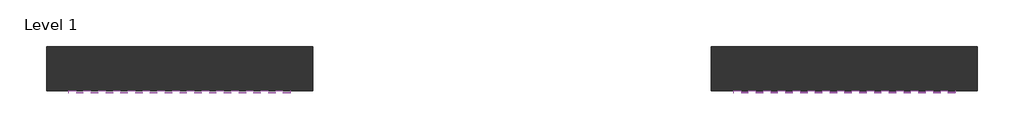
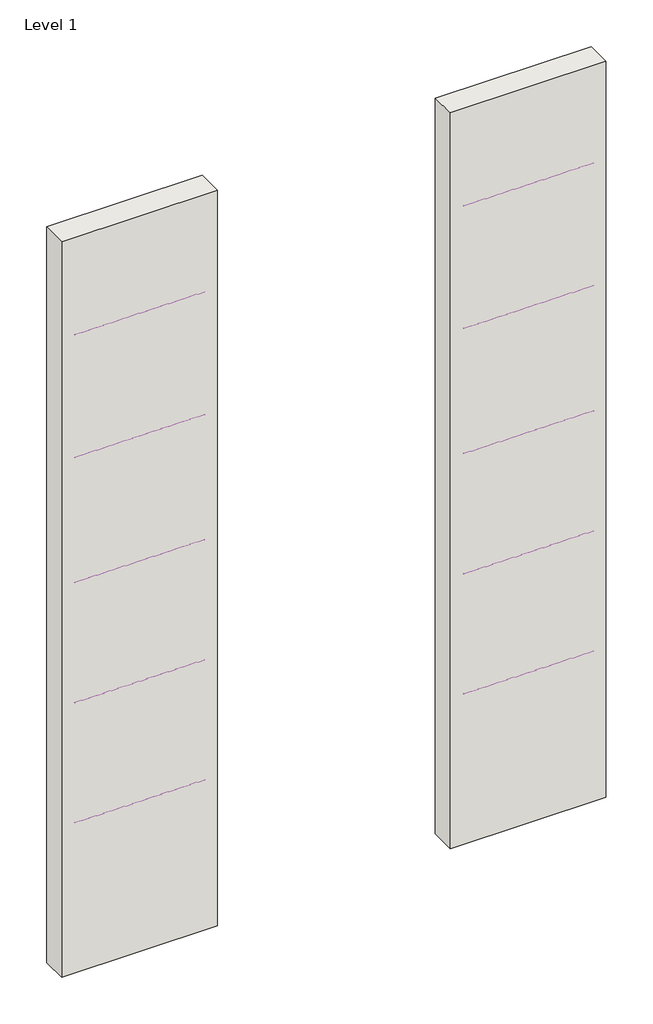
# One storey: 10 coverings, 2 walls.
"""IFC4 building model written with IfcOpenShell, lengths in millimetres."""

from ifc_helpers import new_model, si_unit, point, frame, frame_2d, origin, origin_with_axes, place, context, project, spatial, polyline, circle_curve, trimmed, segment, composite_curve, outline, extrude, element, save

model = new_model("IFC4")

# Units and contexts
model_context = context("Model", 3, world=origin())
ifc_project = project(units=[si_unit("LENGTHUNIT", "METRE", prefix="MILLI")], contexts=[model_context])

# Site, building, storey
site = spatial("IfcSite", under=ifc_project)
building = spatial("IfcBuilding", under=site)
storey = spatial("IfcBuildingStorey", under=building, Name="Level 1", Elevation=0.0)

# Coverings
placement = place(None, origin())
element("IfcCovering", 1, ObjectType="REVIGRES-SILVER_ROOTS-RB-8x118.6-MATT_RECT", at=placement, inside=storey, context=model_context, shape_type="SweptSolid", body=[
    extrude(outline(composite_curve([segment(polyline([(-7008.5342291, 1228.9011415), (-7018.3342291, 1228.9011415), (-7018.3342291, 1299.1011415)]), True, "CONTINUOUS"), segment(trimmed(circle_curve(frame_2d((-7008.5342291, 1299.1011415)), 9.8), [point((-7018.3342291, 1299.1011415))], [point((-7008.5342291, 1308.9011415))], False, "CARTESIAN"), True, "CONTINUOUS"), segment(polyline([(-7008.5342291, 1308.9011415), (-7008.5342291, 1228.9011415)]), True, "CONTINUOUS")], self_intersect=False)), frame((6227.0775556, 0.0, 0.0), z_axis=(1.0, 0.0, 0.0), x_axis=(0.0, 1.0, 0.0)), (0.0, 0.0, 1.0), 1000.0),
])
element("IfcCovering", 2, ObjectType="REVIGRES-SILVER_ROOTS-RB-8x59.2-POL", at=placement, inside=storey, context=model_context, shape_type="SweptSolid", body=[
    extrude(outline(composite_curve([segment(polyline([(-7008.5342291, 3188.9011415), (-7016.5342291, 3188.9011415), (-7016.5342291, 3260.9011415)]), True, "CONTINUOUS"), segment(trimmed(circle_curve(frame_2d((-7008.5342291, 3260.9011415)), 8.0), [point((-7016.5342291, 3260.9011415))], [point((-7008.5342291, 3268.9011415))], False, "CARTESIAN"), True, "CONTINUOUS"), segment(polyline([(-7008.5342291, 3268.9011415), (-7008.5342291, 3188.9011415)]), True, "CONTINUOUS")], self_intersect=False)), frame((9227.0775556, 0.0, 0.0), z_axis=(1.0, 0.0, 0.0), x_axis=(0.0, 1.0, 0.0)), (0.0, 0.0, 1.0), 1000.0),
])
element("IfcCovering", 3, ObjectType="REVIGRES-SILVER_ROOTS-RB-8x59.2-MATT_RECT", at=placement, inside=storey, context=model_context, shape_type="SweptSolid", body=[
    extrude(outline(composite_curve([segment(polyline([(-7008.5342291, 3188.9011415), (-7017.0342291, 3188.9011415), (-7017.0342291, 3260.4011415)]), True, "CONTINUOUS"), segment(trimmed(circle_curve(frame_2d((-7008.5342291, 3260.4011415)), 8.5), [point((-7017.0342291, 3260.4011415))], [point((-7008.5342291, 3268.9011415))], False, "CARTESIAN"), True, "CONTINUOUS"), segment(polyline([(-7008.5342291, 3268.9011415), (-7008.5342291, 3188.9011415)]), True, "CONTINUOUS")], self_intersect=False)), frame((6227.0775556, 0.0, 0.0), z_axis=(1.0, 0.0, 0.0), x_axis=(0.0, 1.0, 0.0)), (0.0, 0.0, 1.0), 1000.0),
])
element("IfcCovering", 4, ObjectType="REVIGRES-SILVER_ROOTS-RB-9.5x29.5-POL", at=placement, inside=storey, context=model_context, shape_type="SweptSolid", body=[
    extrude(outline(composite_curve([segment(polyline([(-7008.5342291, 5208.9011415), (-7016.5342291, 5208.9011415), (-7016.5342291, 5295.9011415)]), True, "CONTINUOUS"), segment(trimmed(circle_curve(frame_2d((-7008.5342291, 5295.9011415)), 8.0), [point((-7016.5342291, 5295.9011415))], [point((-7008.5342291, 5303.9011415))], False, "CARTESIAN"), True, "CONTINUOUS"), segment(polyline([(-7008.5342291, 5303.9011415), (-7008.5342291, 5208.9011415)]), True, "CONTINUOUS")], self_intersect=False)), frame((9227.0775556, 0.0, 0.0), z_axis=(1.0, 0.0, 0.0), x_axis=(0.0, 1.0, 0.0)), (0.0, 0.0, 1.0), 1000.0),
])
element("IfcCovering", 5, ObjectType="REVIGRES-SILVER_ROOTS-RB-8x118.6-POL", at=placement, inside=storey, context=model_context, shape_type="SweptSolid", body=[
    extrude(outline(composite_curve([segment(polyline([(-7008.5342291, 1228.9011415), (-7017.8342291, 1228.9011415), (-7017.8342291, 1299.6011415)]), True, "CONTINUOUS"), segment(trimmed(circle_curve(frame_2d((-7008.5342291, 1299.6011415)), 9.3), [point((-7017.8342291, 1299.6011415))], [point((-7008.5342291, 1308.9011415))], False, "CARTESIAN"), True, "CONTINUOUS"), segment(polyline([(-7008.5342291, 1308.9011415), (-7008.5342291, 1228.9011415)]), True, "CONTINUOUS")], self_intersect=False)), frame((9227.0775556, 0.0, 0.0), z_axis=(1.0, 0.0, 0.0), x_axis=(0.0, 1.0, 0.0)), (0.0, 0.0, 1.0), 1000.0),
])
element("IfcCovering", 6, ObjectType="REVIGRES-SILVER_ROOTS-RB-8x44.35-MATTRECT", at=placement, inside=storey, context=model_context, shape_type="SweptSolid", body=[
    extrude(outline(composite_curve([segment(polyline([(-7008.5342291, 4208.9011415), (-7016.7342291, 4208.9011415), (-7016.7342291, 4280.7011415)]), True, "CONTINUOUS"), segment(trimmed(circle_curve(frame_2d((-7008.5342291, 4280.7011415)), 8.2), [point((-7016.7342291, 4280.7011415))], [point((-7008.5342291, 4288.9011415))], False, "CARTESIAN"), True, "CONTINUOUS"), segment(polyline([(-7008.5342291, 4288.9011415), (-7008.5342291, 4208.9011415)]), True, "CONTINUOUS")], self_intersect=False)), frame((6227.0775556, 0.0, 0.0), z_axis=(1.0, 0.0, 0.0), x_axis=(0.0, 1.0, 0.0)), (0.0, 0.0, 1.0), 1000.0),
])
element("IfcCovering", 7, ObjectType="REVIGRES-SILVER_ROOTS-RB-8x88.9-POL", at=placement, inside=storey, context=model_context, shape_type="SweptSolid", body=[
    extrude(outline(composite_curve([segment(polyline([(-7008.5342291, 2208.9011415), (-7018.3342291, 2208.9011415), (-7018.3342291, 2279.1011415)]), True, "CONTINUOUS"), segment(trimmed(circle_curve(frame_2d((-7008.5342291, 2279.1011415)), 9.8), [point((-7018.3342291, 2279.1011415))], [point((-7008.5342291, 2288.9011415))], False, "CARTESIAN"), True, "CONTINUOUS"), segment(polyline([(-7008.5342291, 2288.9011415), (-7008.5342291, 2208.9011415)]), True, "CONTINUOUS")], self_intersect=False)), frame((9227.0775556, 0.0, 0.0), z_axis=(1.0, 0.0, 0.0), x_axis=(0.0, 1.0, 0.0)), (0.0, 0.0, 1.0), 1000.0),
])
element("IfcCovering", 8, ObjectType="REVIGRES-SILVER_ROOTS-RB-9.5x29.5-MATTRECT", at=placement, inside=storey, context=model_context, shape_type="SweptSolid", body=[
    extrude(outline(composite_curve([segment(polyline([(-7008.5342291, 5208.9011415), (-7017.0342291, 5208.9011415), (-7017.0342291, 5295.4011415)]), True, "CONTINUOUS"), segment(trimmed(circle_curve(frame_2d((-7008.5342291, 5295.4011415)), 8.5), [point((-7017.0342291, 5295.4011415))], [point((-7008.5342291, 5303.9011415))], False, "CARTESIAN"), True, "CONTINUOUS"), segment(polyline([(-7008.5342291, 5303.9011415), (-7008.5342291, 5208.9011415)]), True, "CONTINUOUS")], self_intersect=False)), frame((6227.0775556, 0.0, 0.0), z_axis=(1.0, 0.0, 0.0), x_axis=(0.0, 1.0, 0.0)), (0.0, 0.0, 1.0), 1000.0),
])
element("IfcCovering", 9, ObjectType="REVIGRES-SILVER_ROOTS-RB-8x88.9-MATTRECT", at=placement, inside=storey, context=model_context, shape_type="SweptSolid", body=[
    extrude(outline(composite_curve([segment(polyline([(-7008.5342291, 2208.9011415), (-7019.0342291, 2208.9011415), (-7019.0342291, 2278.4011415)]), True, "CONTINUOUS"), segment(trimmed(circle_curve(frame_2d((-7008.5342291, 2278.4011415)), 10.5), [point((-7019.0342291, 2278.4011415))], [point((-7008.5342291, 2288.9011415))], False, "CARTESIAN"), True, "CONTINUOUS"), segment(polyline([(-7008.5342291, 2288.9011415), (-7008.5342291, 2208.9011415)]), True, "CONTINUOUS")], self_intersect=False)), frame((6227.0775556, 0.0, 0.0), z_axis=(1.0, 0.0, 0.0), x_axis=(0.0, 1.0, 0.0)), (0.0, 0.0, 1.0), 1000.0),
])
element("IfcCovering", 10, ObjectType="REVIGRES-SILVER_ROOTS-RB-8x44.35-POL", at=placement, inside=storey, context=model_context, shape_type="SweptSolid", body=[
    extrude(outline(composite_curve([segment(polyline([(-7008.5342291, 4208.9011415), (-7016.2342291, 4208.9011415), (-7016.2342291, 4281.2011415)]), True, "CONTINUOUS"), segment(trimmed(circle_curve(frame_2d((-7008.5342291, 4281.2011415)), 7.7), [point((-7016.2342291, 4281.2011415))], [point((-7008.5342291, 4288.9011415))], False, "CARTESIAN"), True, "CONTINUOUS"), segment(polyline([(-7008.5342291, 4288.9011415), (-7008.5342291, 4208.9011415)]), True, "CONTINUOUS")], self_intersect=False)), frame((9227.0775556, 0.0, 0.0), z_axis=(1.0, 0.0, 0.0), x_axis=(0.0, 1.0, 0.0)), (0.0, 0.0, 1.0), 1000.0),
])

# Walls
element("IfcWall", 11, ObjectType="Wall 1", at=placement, inside=storey, context=model_context, shape_type="SweptSolid", body=[
    extrude(outline(polyline([(7327.0775556, -7008.5342291), (6127.0775556, -7008.5342291), (6127.0775556, -6808.5342291), (7327.0775556, -6808.5342291), (7327.0775556, -7008.5342291)])), origin_with_axes(), (0.0, 0.0, 1.0), 6000.0),
])
element("IfcWall", 12, ObjectType="Wall 1", at=placement, inside=storey, context=model_context, shape_type="SweptSolid", body=[
    extrude(outline(polyline([(10327.0775556, -7008.5342291), (9127.0775556, -7008.5342291), (9127.0775556, -6808.5342291), (10327.0775556, -6808.5342291), (10327.0775556, -7008.5342291)])), origin_with_axes(), (0.0, 0.0, 1.0), 6000.0),
])

save(model, "model.ifc")
